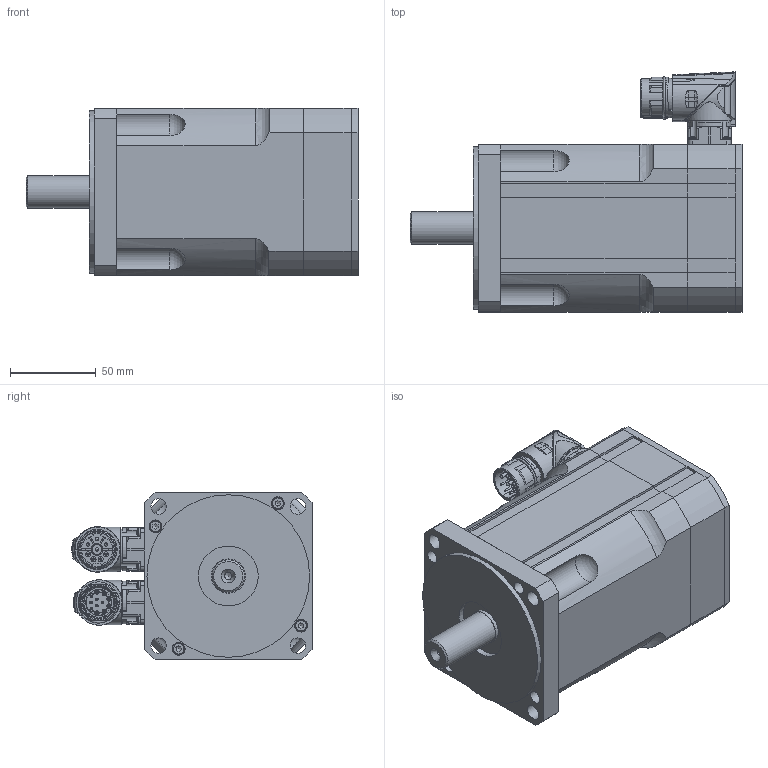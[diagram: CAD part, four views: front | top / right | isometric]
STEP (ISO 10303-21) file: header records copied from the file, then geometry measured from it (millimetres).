
FILE_DESCRIPTION(/* description */ (''),/* implementation_level */ '2;1');
FILE_NAME(/* name */ 'MR6342-Ux-Nxx-G01-A0D-MS-P0.stp',/* time_stamp */ '2017-10-04T12:19:51+02:00',/* author */ (''),/* organization */ (''),/* preprocessor_version */ 'ST-DEVELOPER v16.13',/* originating_system */ 'Autodesk Inventor 2018',/* authorisation */ '');
FILE_SCHEMA (('AUTOMOTIVE_DESIGN { 1 0 10303 214 3 1 1 }'));
Products named in the file (9): MR6342_G01_A0D_MS; MR6342_G01_A0D_MS_front; MR6342_G01_A0D_MS_P0; AED_0201_12-polig, Stift; 124888; 127323; BED_0201_8-polig, Stift; Basis 2; Basis 11
Assembly tree (8 placements, depth 3):
  MR6342_G01_A0D_MS
    MR6342_G01_A0D_MS_front
    MR6342_G01_A0D_MS_P0
    AED_0201_12-polig, Stift
      124888
      127323
    BED_0201_8-polig, Stift
      Basis 2
      Basis 11
Bounding box: 194 x 140.38 x 98.04 mm (x, y, z)
Volume: 657636.7 mm3; surface area: 178729.8 mm2
Topology: 6 solids, 6 shells, 1770 faces, 4353 edges, 2622 vertices
Faces by surface type: cylinder 793, plane 489, bspline 251, cone 126, torus 73, sphere 38
Full cylindrical faces by diameter (mm): 1 x16, 1.18 x12, 1.2 x12, 1.3 x4, 2 x4, 2.013 x2, 2.208 x8, 2.4 x8, 2.459 x4, 2.5 x8, 2.7 x4, 3 x5, 3.1 x4, 3.2 x1, 3.242 x4, 3.3 x3, 3.95 x4, 4 x4, 4.134 x1, 4.3 x4, 4.5 x2, 5 x8, 5.5 x2, 5.8 x1, 5.9 x2, 6.5 x3, 6.8 x1, 7 x4, 7.5 x4, 8 x4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
Entity records: 63645 total; most frequent: CARTESIAN_POINT 22653, DIRECTION 8066, ORIENTED_EDGE 7856, EDGE_CURVE 3928, AXIS2_PLACEMENT_3D 3365, VERTEX_POINT 2516, EDGE_LOOP 2234, STYLED_ITEM 1768
